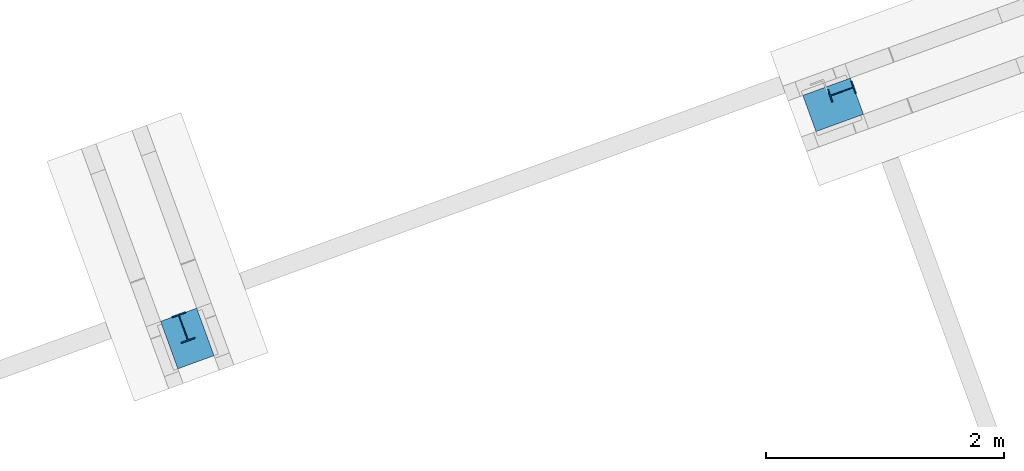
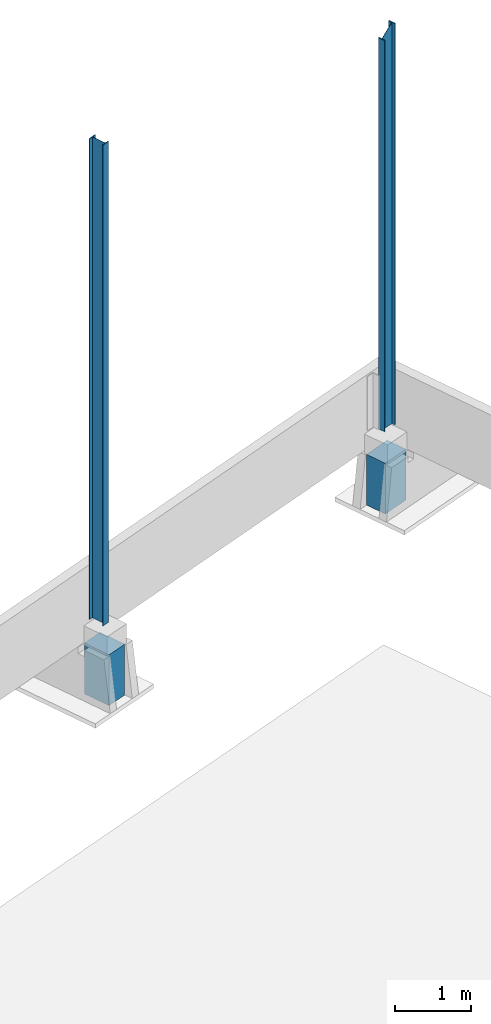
# One storey, part 5 of 20: 4 columns, 1 opening, 4 elements without a shape of their own.
"""IFC4 building model written with IfcOpenShell, lengths in millimetres."""

from ifc_helpers import new_model, si_unit, direction, frame, origin_with_axes, place, context, subcontext, project, spatial, line, indexed_curve, outline, extrude, material, element, aggregate, save


model = new_model("IFC4")

# Units and contexts
model_context = context("Model", 3, precision=0.2, world=frame((203566.813, 116264.779, 0.0), z_axis=(0.0, 0.0, 1.0), x_axis=(1.0, 0.0, 0.0)), true_north=direction((-0.9396138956, -0.3422363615)))
body_context = subcontext(model_context, "Body", "Model", "MODEL_VIEW")
ifc_project = project(units=[si_unit("LENGTHUNIT", "METRE", prefix="MILLI"), si_unit("AREAUNIT", "SQUARE_METRE"), si_unit("VOLUMEUNIT", "CUBIC_METRE"), si_unit("MASSUNIT", "GRAM", prefix="KILO"), si_unit("TIMEUNIT", "SECOND"), si_unit("PLANEANGLEUNIT", "RADIAN"), si_unit("SOLIDANGLEUNIT", "STERADIAN"), si_unit("THERMODYNAMICTEMPERATUREUNIT", "DEGREE_CELSIUS"), si_unit("LUMINOUSINTENSITYUNIT", "LUMEN")], contexts=[model_context])

# Site, building, storey
site_placement = place(None, origin_with_axes())
site = spatial("IfcSite", under=ifc_project, at=site_placement, Name="Nobelprojektet", CompositionType="ELEMENT")
building_placement = place(site_placement, origin_with_axes())
building = spatial("IfcBuilding", under=site, at=building_placement, Name="Hall B", CompositionType="ELEMENT")
storey_placement = place(building_placement, frame((0.0, 0.0, 1000.0), z_axis=(0.0, 0.0, 1.0), x_axis=(1.0, 0.0, 0.0)))
storey = spatial("IfcBuildingStorey", under=building, at=storey_placement, Name="Plan_1", CompositionType="ELEMENT", Elevation=1000.0)

# Assembly, column
assembly_1_placement = place(storey_placement, frame((162036.42825, 185821.95977, 131049.99996), z_axis=(0.3422371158, -0.9396136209, 1.3e-09), x_axis=(0.0, 0.0, 1.0)))
assembly_1 = element("IfcElementAssembly", 1, at=assembly_1_placement, inside=storey, Name="BEF. GRUND", PredefinedType="NOTDEFINED")
ifc_material_1 = material(Name="C25/30", Category="CONCRETE")
column_1_placement = place(assembly_1_placement, origin_with_axes())
column_1 = element("IfcColumn", 2, at=column_1_placement, material=ifc_material_1, Name="BEF. GRUND", PredefinedType="NOTDEFINED", context=body_context, shape_type="SolidModel", body=[
    extrude(outline(indexed_curve([(-162.0, -212.5), (162.0, -212.5), (162.0, 212.5), (-162.0, 212.5)], segments=[line(1, 2, 3, 4, 1)])), frame((0.0, 0.0, 0.0), z_axis=(-1.0, 0.0, 0.0), x_axis=(0.0, 0.0, 1.0)), (0.0, 0.0, -1.0), 820.0),
])
aggregate(assembly_1, [column_1])

assembly_2_placement = place(storey_placement, frame((156598.83926, 183854.71702, 131049.99996), z_axis=(0.9396136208, 0.3422371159, 0.0), x_axis=(0.0, 0.0, 1.0)))
assembly_2 = element("IfcElementAssembly", 3, at=assembly_2_placement, inside=storey, Name="BEF. GRUND", PredefinedType="NOTDEFINED")
column_2_placement = place(assembly_2_placement, origin_with_axes())
column_2 = element("IfcColumn", 4, at=column_2_placement, material=ifc_material_1, Name="BEF. GRUND", PredefinedType="NOTDEFINED", context=body_context, shape_type="SolidModel", body=[
    extrude(outline(indexed_curve([(-162.0, -212.5), (162.0, -212.5), (162.0, 212.5), (-162.0, 212.5)], segments=[line(1, 2, 3, 4, 1)])), frame((0.0, 0.0, 0.0), z_axis=(-1.0, 0.0, 0.0), x_axis=(0.0, 0.0, 1.0)), (0.0, 0.0, -1.0), 820.0),
])
aggregate(assembly_2, [column_2])

assembly_3_placement = place(storey_placement, frame((156565.46665, 183946.34243, 132195.00293), z_axis=(-0.9396136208, -0.3422371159, 0.0), x_axis=(0.0, 0.0, 1.0)))
assembly_3 = element("IfcElementAssembly", 5, at=assembly_3_placement, inside=storey, Name="BEF. STOMME", PredefinedType="NOTDEFINED")
ifc_material_2 = material(Name="S355J2", Category="STEEL")
column_3_placement = place(assembly_3_placement, origin_with_axes())
column_3 = element("IfcColumn", 6, at=column_3_placement, material=ifc_material_2, Name="BEF. STOMME", PredefinedType="NOTDEFINED", context=body_context, shape_type="SolidModel", body=[
    extrude(outline(indexed_curve([(-60.0, -120.0), (60.0, -120.0), (60.0, -110.2), (3.1, -110.2), (3.1, 110.2), (60.0, 110.2), (60.0, 120.0), (-60.0, 120.0), (-60.0, 110.2), (-3.1, 110.2), (-3.1, -110.2), (-60.0, -110.2)], segments=[line(1, 2, 3, 4, 5, 6, 7, 8, 9, 10, 11, 12, 1)])), frame((0.0, 0.0, 0.0), z_axis=(-1.0, 0.0, 0.0), x_axis=(0.0, 0.0, 1.0)), (0.0, 0.0, -1.0), 7762.25281),
])
aggregate(assembly_3, [column_3])

# Assembly, column, voiding feature
assembly_4_placement = place(storey_placement, frame((162110.06355, 185933.93266, 132179.99996), z_axis=(-0.3422371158, 0.9396136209, 1.3e-09), x_axis=(0.0, 0.0, 1.0)))
assembly_4 = element("IfcElementAssembly", 7, at=assembly_4_placement, inside=storey, Name="BEF. STOMME", PredefinedType="NOTDEFINED")
column_4_placement = place(assembly_4_placement, origin_with_axes())
column_4 = element("IfcColumn", 8, at=column_4_placement, material=ifc_material_2, Name="BEF. STOMME", PredefinedType="NOTDEFINED", context=body_context, shape_type="SolidModel", body=[
    extrude(outline(indexed_curve([(-55.0, -110.0), (55.0, -110.0), (55.0, -100.8), (2.95, -100.8), (2.95, 100.8), (55.0, 100.8), (55.0, 110.0), (-55.0, 110.0), (-55.0, 100.8), (-2.95, 100.8), (-2.95, -100.8), (-55.0, -100.8)], segments=[line(1, 2, 3, 4, 5, 6, 7, 8, 9, 10, 11, 12, 1)])), frame((0.0, 0.0, 0.0), z_axis=(-1.0, 0.0, 0.0), x_axis=(0.0, 0.0, 1.0)), (0.0, 0.0, -1.0), 6534.0),
])
voiding_feature_placement = place(column_4_placement, frame((6312.27469, -110.0058, -0.00012), z_axis=(0.0, 0.0, -1.0), x_axis=(0.608784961, 0.793335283, -3e-10)))
element("IfcVoidingFeature", 9, at=voiding_feature_placement, cuts=column_4, Name="CUTPART", PredefinedType="HOLE", context=body_context, shape_type="SolidModel", body=[
    extrude(outline(indexed_curve([(0.0, 0.0), (277.31178, 0.0), (309.52139, 41.96629), (134.98763, 175.89898)], segments=[line(1, 2, 3, 4, 1)])), frame((0.0, 0.0, 57.5), z_axis=(0.0, 0.0, 1.0), x_axis=(1.0, 0.0, 0.0)), (0.0, 0.0, -1.0), 115.0),
])
aggregate(assembly_4, [column_4])

save(model, "model.ifc")
